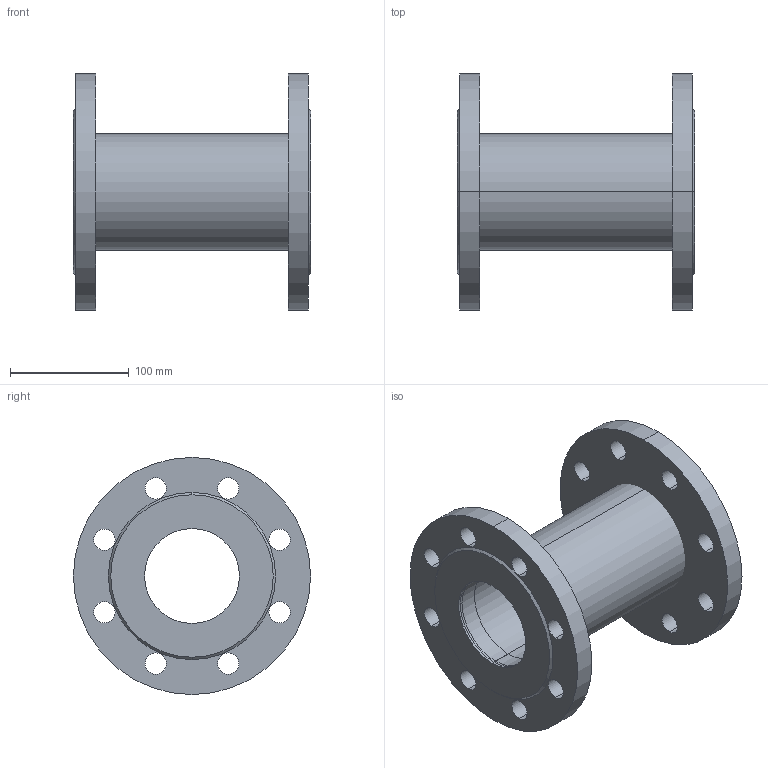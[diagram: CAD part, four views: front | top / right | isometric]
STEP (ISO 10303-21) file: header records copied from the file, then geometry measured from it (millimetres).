
FILE_DESCRIPTION(('STEP AP214'),'1');
FILE_NAME('U:/VDI-Daten/8500/8500_PN16_L200_DN80.STP','2012-06-12T14:09:16',(' '),(' '),'Spatial InterOp 3D',' ',' ');
FILE_SCHEMA(('automotive_design'));
Length unit declared in the file: millimetre
Products named in the file (5): 3D-Objekt
Bounding box: 200 x 200 x 200 mm (x, y, z)
Volume: 1351771.8 mm3; surface area: 299184.2 mm2
Topology: 5 solids, 5 shells, 62 faces, 156 edges, 104 vertices
Faces by surface type: cylinder 48, plane 10, cone 4
Entity records: 2621 total; most frequent: DIRECTION 394, CARTESIAN_POINT 327, ORIENTED_EDGE 312, AXIS2_PLACEMENT_3D 171, EDGE_CURVE 156, EDGE_LOOP 104, VERTEX_POINT 104, CIRCLE 104
